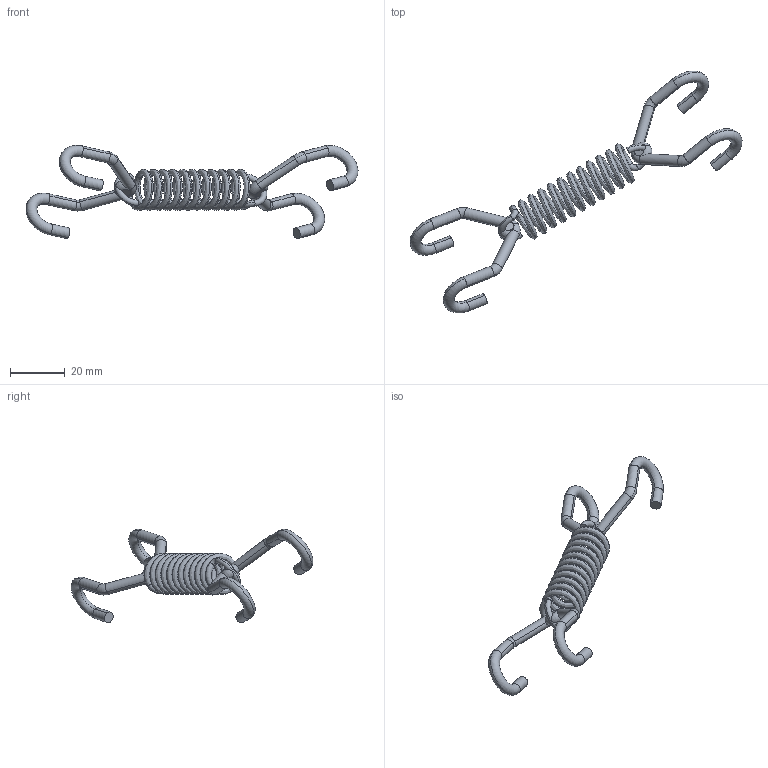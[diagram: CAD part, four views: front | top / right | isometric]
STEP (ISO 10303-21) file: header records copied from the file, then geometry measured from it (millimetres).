
FILE_DESCRIPTION (( 'STEP AP214' ), '1' );
FILE_NAME ('IRB365_1.5-1300_OmniCore_rev00_SPRING_UNIT_6_CAD.step', '2025-09-09T11:52:31', ( '' ), ( '' ), 'SwSTEP 2.0', 'SolidWorks 2024', '' );
FILE_SCHEMA (( 'AUTOMOTIVE_DESIGN' ));
Length unit declared in the file: millimetre
Products named in the file (1): IRB365_1.5-1300_OmniCore_rev00_SPRING_UNIT_6_CAD
Bounding box: 121.25 x 88.34 x 34.04 mm (x, y, z)
Volume: 5107.6 mm3; surface area: 6623.6 mm2
Topology: 1 solids, 1 shells, 74 faces, 182 edges, 110 vertices
Faces by surface type: torus 38, cylinder 24, plane 10, bspline 2
Entity records: 5120 total; most frequent: CARTESIAN_POINT 2504, DIRECTION 422, ORIENTED_EDGE 364, AXIS2_PLACEMENT_3D 199, EDGE_CURVE 182, CIRCLE 126, VERTEX_POINT 110, UNCERTAINTY_MEASURE_WITH_UNIT 76
